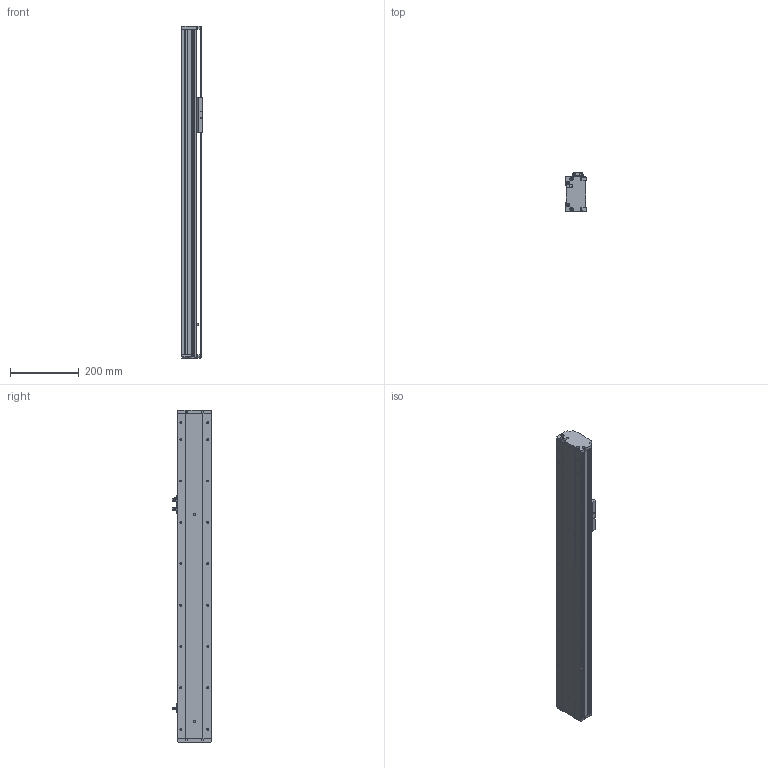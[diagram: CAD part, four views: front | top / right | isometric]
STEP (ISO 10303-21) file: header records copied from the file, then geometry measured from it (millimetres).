
FILE_DESCRIPTION (( 'STEP AP214' ), '1' );
FILE_NAME ('KSD100S-S600-M-CM.STEP', '2019-08-29T08:49:25', ( '微软用户' ), ( '微软中国' ), 'SwSTEP 2.0', 'SolidWorks 2014', '' );
FILE_SCHEMA (( 'AUTOMOTIVE_DESIGN' ));
Length unit declared in the file: millimetre
Products named in the file (8): 覜茼え100遵圉猾敕; U倰嫖萇EEㄜSX672; 100宽防尘板丝杆600行程电机内装; 100宽马达安装板-电机内装; 100宽滚珠螺姆安装板半封闭; 100遵傷啣; 100宽底板半封闭丝杆600行程电机内装; KSD100S-S600-M-CM
Assembly tree (9 placements, depth 2):
  KSD100S-S600-M-CM
    100宽底板半封闭丝杆600行程电机内装
    100遵傷啣
    100宽滚珠螺姆安装板半封闭
    100宽马达安装板-电机内装
    100宽防尘板丝杆600行程电机内装
    U倰嫖萇EEㄜSX672  x3
    覜茼え100遵圉猾敕
Bounding box: 60 x 113.7 x 963 mm (x, y, z)
Volume: 1866903 mm3; surface area: 677480.8 mm2
Topology: 9 solids, 9 shells, 1073 faces, 3064 edges, 1933 vertices
Faces by surface type: cylinder 504, plane 448, cone 121
Entity records: 37514 total; most frequent: CARTESIAN_POINT 7852, DIRECTION 4857, ORIENTED_EDGE 4788, EDGE_CURVE 2394, AXIS2_PLACEMENT_3D 1742, VERTEX_POINT 1557, VECTOR 1373, LINE 1373
